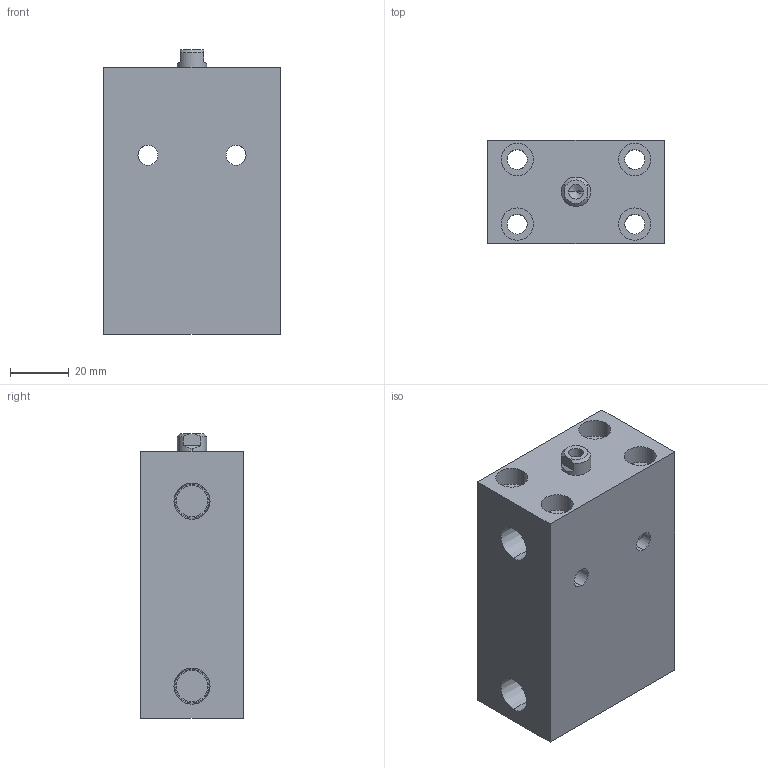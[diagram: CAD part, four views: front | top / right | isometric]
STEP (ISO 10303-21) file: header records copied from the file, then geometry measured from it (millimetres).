
FILE_DESCRIPTION (( 'STEP AP203' ), '1' );
FILE_NAME ('HBC-16D-50N.STEP', '2019-11-29T08:52:02', ( '微软用户' ), ( '微软中国' ), 'SwSTEP 2.0', 'SolidWorks 2012', '' );
FILE_SCHEMA (( 'CONFIG_CONTROL_DESIGN' ));
Length unit declared in the file: millimetre
Products named in the file (3): HBC-16D-50N掛极; HBC-16D-50N活塞杆; HBC-16D-50N
Assembly tree (2 placements, depth 2):
  HBC-16D-50N
    HBC-16D-50N掛极
    HBC-16D-50N活塞杆
Bounding box: 60 x 35 x 97 mm (x, y, z)
Volume: 170918.6 mm3; surface area: 32910 mm2
Topology: 2 solids, 2 shells, 59 faces, 146 edges, 95 vertices
Faces by surface type: cylinder 30, plane 21, cone 8
Entity records: 2385 total; most frequent: CARTESIAN_POINT 615, DIRECTION 326, ORIENTED_EDGE 288, EDGE_CURVE 144, AXIS2_PLACEMENT_3D 134, VERTEX_POINT 95, EDGE_LOOP 85, CIRCLE 70
